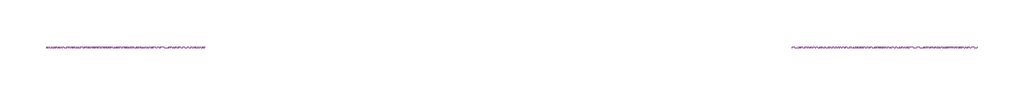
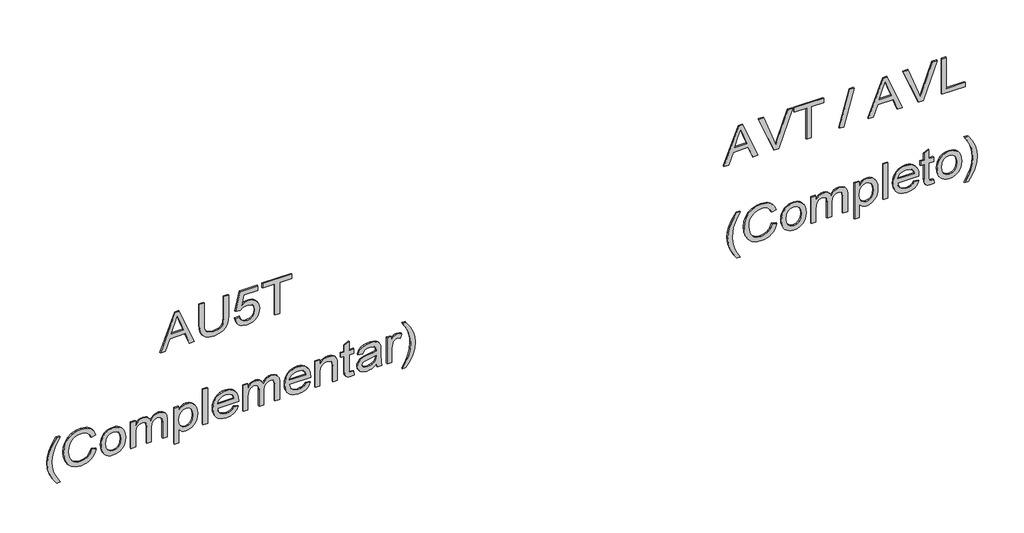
# One storey, part 7 of 14: 2 proxies.
"""IFC4 building model written with IfcOpenShell, lengths in millimetres."""

from ifc_helpers import new_model, si_unit, frame, origin, place, context, project, spatial, polyline, outline, extrude, element, save

model = new_model("IFC4")

# Units and contexts
model_context = context("Model", 3, world=origin())
ifc_project = project(units=[si_unit("LENGTHUNIT", "METRE", prefix="MILLI")], contexts=[model_context])

# Site, building, storey
site = spatial("IfcSite", under=ifc_project)
building = spatial("IfcBuilding", under=site)
storey = spatial("IfcBuildingStorey", under=building, Name="04 - Marelli - Planta Baixa - Painéis de Vidro", Elevation=36000.0)

# Proxies
placement = place(None, origin())
element("IfcBuildingElementProxy", 1, Name="300mm Arial", ObjectType="300mm Arial", at=placement, inside=storey, context=model_context, shape_type="SweptSolid", body=[
    extrude(outline(polyline([(42065.9244535, 53305.46327), (42065.9244535, 53345.2681019), (42160.1022443, 53379.7018566), (42160.1022443, 53503.8252418), (42065.9244535, 53538.3325729), (42065.9244535, 53578.1374048), (42367.293384, 53457.8399924), (42367.293384, 53425.7606824), (42065.9244535, 53305.46327)]), holes=[polyline([(42197.7733606, 53393.5342196), (42278.3395176, 53423.0383556), (42329.6222677, 53441.8003374), (42271.8647944, 53462.9167639), (42197.7733606, 53490.0664552), (42197.7733606, 53393.5342196)])]), frame((0.0, 8778.3159498, 0.0), z_axis=(0.0, 1.0, 0.0), x_axis=(0.0, 0.0, 1.0)), (0.0, 0.0, 1.0), 10.0),
    extrude(outline(polyline([(42367.293384, 53816.1570557), (42194.7567282, 53816.1570557), (42147.5942565, 53811.3929839), (42130.8556257, 53805.4378941), (42118.6787316, 53797.1007683), (42110.0197092, 53785.9677395), (42103.8346931, 53771.6249402), (42098.8866803, 53733.3100304), (42101.3882779, 53709.1401833), (42108.8930706, 53689.0170382), (42121.0055853, 53673.5843885), (42137.3303488, 53663.4860277), (42160.9023876, 53657.9126155), (42194.7567282, 53656.0548114), (42367.293384, 53656.0548114), (42367.293384, 53618.3836951), (42193.4323531, 53618.3836951), (42150.6568741, 53621.2439776), (42117.9797559, 53629.8248251), (42093.6167707, 53645.0919279), (42075.783691, 53668.0109762), (42064.8575957, 53698.5911671), (42061.215564, 53736.8416975), (42065.4002217, 53775.9475536), (42077.9541948, 53806.7392766), (42097.176029, 53829.2720488), (42121.3642702, 53843.6010525), (42152.7170132, 53851.2713921), (42193.4323531, 53853.828172), (42367.293384, 53853.828172), (42367.293384, 53816.1570557)])), frame((0.0, 8778.3159498, 0.0), z_axis=(0.0, 1.0, 0.0), x_axis=(0.0, 0.0, 1.0)), (0.0, 0.0, 1.0), 10.0),
    extrude(outline(polyline([(42145.9755757, 53905.6259569), (42111.4222593, 53914.8138098), (42096.9805917, 53923.5395108), (42084.4289179, 53935.0197283), (42074.2730756, 53948.8176024), (42067.0189025, 53964.4962732), (42061.215564, 54001.4960049), (42063.4734397, 54024.9852703), (42070.247067, 54045.8625735), (42081.5364457, 54064.1279145), (42097.3415759, 54079.7812934), (42112.7742256, 54090.114179), (42129.5680387, 54097.4948115), (42167.239155, 54103.3993175), (42187.5002559, 54101.7599434), (42205.8299763, 54096.841821), (42222.2283162, 54088.6449503), (42236.6952757, 54077.1693313), (42248.5088863, 54063.3070778), (42256.9471795, 54047.9503038), (42262.0101555, 54031.0990092), (42263.6978141, 54012.7531939), (42258.2531606, 53984.555039), (42241.9192, 53957.644471), (42324.9133781, 53973.7577024), (42324.9133781, 54089.2726489), (42362.5844944, 54089.2726489), (42362.5844944, 53943.2970732), (42207.1911397, 53910.3348465), (42202.4822501, 53948.0059628), (42219.4783983, 53969.1591775), (42224.389623, 53983.9572307), (42226.0266978, 54002.2317689), (42221.9248136, 54030.1264211), (42209.6191609, 54049.9460636), (42190.2317797, 54061.7826668), (42164.8847102, 54065.7282012), (42137.9649452, 54061.5159524), (42116.9496863, 54048.8792058), (42103.4024318, 54028.6456961), (42098.8866803, 54001.6431577), (42102.1332389, 53979.4414793), (42111.8729147, 53962.2797842), (42128.0689196, 53950.2132547), (42150.6844652, 53943.2970732), (42145.9755757, 53905.6259569)])), frame((0.0, 8778.3159498, 0.0), z_axis=(0.0, 1.0, 0.0), x_axis=(0.0, 0.0, 1.0)), (0.0, 0.0, 1.0), 10.0),
    extrude(outline(polyline([(42065.9244535, 54225.8304455), (42065.9244535, 54263.5015618), (42329.6222677, 54263.5015618), (42329.6222677, 54362.3882421), (42367.293384, 54362.3882421), (42367.293384, 54126.9437652), (42329.6222677, 54126.9437652), (42329.6222677, 54225.8304455), (42065.9244535, 54225.8304455)])), frame((0.0, 8778.3159498, 0.0), z_axis=(0.0, 1.0, 0.0), x_axis=(0.0, 0.0, 1.0)), (0.0, 0.0, 1.0), 10.0),
    extrude(outline(polyline([(41249.3155348, 52469.4146478), (41249.3155348, 52497.667985), (41297.5540614, 52468.8260366), (41345.8109821, 52448.2246448), (41394.0862969, 52435.8638098), (41442.3800058, 52431.7435314), (41480.2534572, 52434.1163703), (41517.9429677, 52441.2348869), (41575.7740173, 52462.4248898), (41635.4444769, 52497.667985), (41635.4444769, 52469.4146478), (41584.934279, 52434.7233756), (41534.2033518, 52410.4063757), (41489.4137189, 52398.1559053), (41442.600735, 52394.0724151), (41389.2210575, 52399.5354628), (41337.68079, 52415.9246057), (41290.2791949, 52440.2232114), (41249.3155348, 52469.4146478)])), frame((0.0, 8778.3159498, 0.0), z_axis=(0.0, 1.0, 0.0), x_axis=(0.0, 0.0, 1.0)), (0.0, 0.0, 1.0), 10.0),
    extrude(outline(polyline([(41441.2027835, 52751.94802), (41408.9395325, 52739.761929), (41385.7261786, 52719.9790747), (41371.7098746, 52693.7766796), (41367.0377732, 52662.331966), (41370.4682728, 52635.3570187), (41380.7597717, 52610.3502401), (41397.9858461, 52589.491331), (41422.2200725, 52574.9599922), (41452.3128197, 52566.4343269), (41487.1144565, 52563.5924385), (41515.5333406, 52565.9928685), (41543.1060961, 52573.1941586), (41567.4966724, 52586.3183488), (41586.3690188, 52606.4874792), (41598.4539423, 52633.0669533), (41602.4822501, 52665.4221748), (41598.8494154, 52693.491571), (41587.9509113, 52716.3370429), (41569.1061561, 52734.1793197), (41541.6345681, 52747.2391305), (41550.6108888, 52784.9102468), (41588.4291579, 52768.2727836), (41603.751443, 52756.4706693), (41616.6824952, 52742.3463), (41626.9510013, 52726.16639), (41634.2856486, 52708.1976538), (41640.1533665, 52666.8937028), (41635.6192209, 52629.0386455), (41622.0167841, 52594.4945261), (41599.6771499, 52565.3674691), (41568.9314122, 52543.763599), (41530.9843844, 52530.3818914), (41487.0408801, 52525.9213222), (41445.3782441, 52529.8668566), (41406.4747231, 52541.7034598), (41373.3837376, 52561.0908409), (41349.1587083, 52587.6887092), (41334.3146698, 52622.3891784), (41329.3666569, 52666.0843624), (41331.0014325, 52688.50677), (41335.9057594, 52709.1265558), (41344.0796375, 52727.9437199), (41355.5230668, 52744.9582621), (41370.0796975, 52759.8344903), (41387.5931797, 52772.2367121), (41408.0635135, 52782.1649274), (41431.4906988, 52789.6191364), (41441.2027835, 52751.94802)])), frame((0.0, 8778.3159498, 0.0), z_axis=(0.0, 1.0, 0.0), x_axis=(0.0, 0.0, 1.0)), (0.0, 0.0, 1.0), 10.0),
    extrude(outline(polyline([(41444.7344506, 52827.2902527), (41418.4124939, 52828.9986047), (41395.3646869, 52834.1236607), (41375.5910296, 52842.6654208), (41359.0915221, 52854.6238849), (41346.0868936, 52869.350661), (41336.7978732, 52886.1973571), (41331.224461, 52905.1639733), (41329.3666569, 52926.2505094), (41332.7419742, 52952.8391806), (41342.8679261, 52977.2757421), (41359.1007192, 52997.8495427), (41380.7965599, 53012.849931), (41409.767267, 53022.0101927), (41447.8246594, 53025.0636133), (41472.7049786, 53023.3368672), (41494.7388108, 53018.1566288), (41513.9261561, 53009.5228982), (41530.2670145, 52997.4356754), (41543.3199275, 52982.6261259), (41552.6434368, 52965.825415), (41558.2375424, 52947.0335428), (41560.1022443, 52926.2505094), (41558.5709355, 52907.4241483), (41553.9770091, 52890.0877092), (41546.3204651, 52874.2411923), (41535.6013034, 52859.8845974), (41518.830483, 52845.6245716), (41498.095734, 52835.4388389), (41473.3970566, 52829.3273992), (41444.7344506, 52827.2902527)]), holes=[polyline([(41444.808027, 52864.961369), (41478.8830968, 52869.3207706), (41503.1173232, 52882.3989755), (41517.6026768, 52902.0806623), (41522.431128, 52926.2505094), (41517.5842827, 52950.1720361), (41503.0437468, 52969.8445258), (41479.0854319, 52983.0055042), (41445.9852494, 52987.392497), (41411.1468245, 52983.0330953), (41386.535519, 52969.9548904), (41371.9122097, 52950.3099918), (41367.0377732, 52926.2505094), (41371.8846185, 52902.0806623), (41386.4251544, 52882.3989755), (41410.7145631, 52869.3207706), (41444.808027, 52864.961369)])]), frame((0.0, 8778.3159498, 0.0), z_axis=(0.0, 1.0, 0.0), x_axis=(0.0, 0.0, 1.0)), (0.0, 0.0, 1.0), 10.0),
    extrude(outline(polyline([(41334.0755465, 53067.4436191), (41334.0755465, 53105.1147354), (41445.6909438, 53105.1147354), (41471.6082304, 53106.5494752), (41490.6461236, 53110.8536945), (41504.368122, 53118.3584872), (41514.3377241, 53129.3949471), (41520.407777, 53142.7674576), (41522.431128, 53157.2804023), (41519.3961015, 53174.359324), (41510.2910222, 53185.8648334), (41495.0974958, 53192.4039358), (41473.7971282, 53194.5836366), (41334.0755465, 53194.5836366), (41334.0755465, 53232.2547529), (41459.008272, 53232.2547529), (41487.7214617, 53235.94277), (41507.3479662, 53247.006821), (41518.6603375, 53263.6442842), (41522.431128, 53284.0525379), (41520.9596, 53295.6132296), (41516.5450161, 53305.5736346), (41509.7300021, 53313.3175506), (41501.0571841, 53318.2287752), (41469.6032735, 53321.7236542), (41334.0755465, 53321.7236542), (41334.0755465, 53359.3947705), (41485.7900813, 53359.3947705), (41518.7615051, 53355.0813541), (41541.8920855, 53342.1411049), (41555.5497046, 53321.1994223), (41560.1022443, 53292.8817058), (41557.366122, 53273.3563689), (41549.1577549, 53255.7624124), (41535.4771432, 53240.0998365), (41516.3242869, 53226.368641), (41534.7643719, 53218.1648725), (41548.5875379, 53205.6200965), (41557.2235677, 53188.8262834), (41560.1022443, 53167.8754038), (41557.27875, 53148.3224757), (41548.808267, 53131.0136279), (41535.702471, 53116.4455009), (41518.9730372, 53105.1147354), (41555.3933548, 53105.1147354), (41555.3933548, 53067.4436191), (41334.0755465, 53067.4436191)])), frame((0.0, 8778.3159498, 0.0), z_axis=(0.0, 1.0, 0.0), x_axis=(0.0, 0.0, 1.0)), (0.0, 0.0, 1.0), 10.0),
    extrude(outline(polyline([(41249.3155348, 53415.9014449), (41249.3155348, 53453.5725612), (41363.5061061, 53453.5725612), (41349.9956398, 53464.213548), (41339.0419534, 53477.4481027), (41331.785481, 53492.9083436), (41329.3666569, 53510.2263885), (41332.9810975, 53534.6445559), (41343.8244193, 53557.8671069), (41361.4459669, 53577.806311), (41385.3950848, 53592.374438), (41414.2094421, 53601.2863794), (41446.4267078, 53604.2570265), (41476.7217901, 53601.6266702), (41504.4784866, 53593.7356014), (41527.9861461, 53580.6757906), (41545.5341173, 53562.5392082), (41556.4602125, 53540.2639534), (41560.1022443, 53514.7881252), (41557.4994792, 53495.6582615), (41549.6911838, 53479.6186065), (41536.6773583, 53465.8598199), (41518.4580024, 53453.5725612), (41555.3933548, 53453.5725612), (41555.3933548, 53415.9014449), (41249.3155348, 53415.9014449)]), holes=[polyline([(41442.968617, 53453.5725612), (41477.1356573, 53457.9227658), (41502.0872537, 53470.9733796), (41517.3451594, 53489.670982), (41522.431128, 53510.9621525), (41517.6486621, 53532.1705495), (41503.3012642, 53550.1783732), (41479.3521464, 53562.4840259), (41445.7645202, 53566.5859102), (41410.7237602, 53562.3828584), (41386.2412134, 53549.773703), (41371.8386333, 53531.2784357), (41367.0377732, 53509.4170481), (41371.6730864, 53487.9051484), (41385.5790258, 53469.8697336), (41409.1970499, 53457.6468543), (41442.968617, 53453.5725612)])]), frame((0.0, 8778.3159498, 0.0), z_axis=(0.0, 1.0, 0.0), x_axis=(0.0, 0.0, 1.0)), (0.0, 0.0, 1.0), 10.0),
    extrude(outline(polyline([(53684.3081486, 8778.3159498), (53646.6370323, 8778.3159498), (53646.6370323, 8788.3159498), (53684.3081486, 8788.3159498), (53684.3081486, 8778.3159498)])), frame((0.0, 0.0, 41334.0755465), z_axis=(0.0, 0.0, 1.0), x_axis=(1.0, 0.0, 0.0)), (0.0, 0.0, 1.0), 301.3689304),
    extrude(outline(polyline([(41400.0, 53895.7667195), (41385.1191733, 53885.2085062), (41374.9104479, 53871.4865078), (41369.0059419, 53854.6007242), (41367.0377732, 53834.5511555), (41371.2868103, 53807.8889079), (41384.0339214, 53786.0275203), (41404.7640718, 53770.8799791), (41432.9622268, 53764.3592708), (41432.9622268, 53933.658565), (41443.1157698, 53933.8792942), (41469.3687487, 53932.0927672), (41492.5039277, 53926.7331864), (41512.5213067, 53917.8005517), (41529.4208859, 53905.2948631), (41542.8439802, 53889.9748773), (41552.4319047, 53872.5993508), (41558.1846594, 53853.1682837), (41560.1022443, 53831.6816759), (41558.1800609, 53809.4799975), (41552.4135106, 53789.4488228), (41542.8025935, 53771.588152), (41529.3473095, 53755.8979849), (41512.4109422, 53743.1186841), (41492.3567749, 53733.9906121), (41469.1848077, 53728.5137689), (41442.8950406, 53726.6881545), (41417.467497, 53728.4953748), (41395.0427901, 53733.9170357), (41375.62092, 53742.9531372), (41359.2018867, 53755.6036793), (41346.1489737, 53771.3352331), (41336.8254644, 53789.6143697), (41331.2313588, 53810.4410892), (41329.3666569, 53833.8153915), (41333.6892704, 53869.4723538), (41346.6571107, 53898.1579524), (41367.4608375, 53919.3939406), (41395.2911105, 53932.7020718), (41400.0, 53895.7667195)]), holes=[polyline([(41470.6333431, 53764.3592708), (41491.8693312, 53770.5488853), (41508.3412476, 53785.1446035), (41518.9086579, 53806.1414684), (41522.431128, 53831.5345231), (41518.0165441, 53859.1624609), (41504.7727922, 53881.125016), (41490.535759, 53891.1130122), (41470.6333431, 53896.2081778), (41470.6333431, 53764.3592708)])]), frame((0.0, 8778.3159498, 0.0), z_axis=(0.0, 1.0, 0.0), x_axis=(0.0, 0.0, 1.0)), (0.0, 0.0, 1.0), 10.0),
    extrude(outline(polyline([(41334.0755465, 53971.5504105), (41334.0755465, 54009.2215268), (41445.6909438, 54009.2215268), (41471.6082304, 54010.6562665), (41490.6461236, 54014.9604859), (41504.368122, 54022.4652786), (41514.3377241, 54033.5017384), (41520.407777, 54046.874249), (41522.431128, 54061.3871937), (41519.3961015, 54078.4661153), (41510.2910222, 54089.9716247), (41495.0974958, 54096.5107272), (41473.7971282, 54098.690428), (41334.0755465, 54098.690428), (41334.0755465, 54136.3615443), (41459.008272, 54136.3615443), (41487.7214617, 54140.0495613), (41507.3479662, 54151.1136123), (41518.6603375, 54167.7510755), (41522.431128, 54188.1593292), (41520.9596, 54199.7200209), (41516.5450161, 54209.6804259), (41509.7300021, 54217.4243419), (41501.0571841, 54222.3355666), (41469.6032735, 54225.8304455), (41334.0755465, 54225.8304455), (41334.0755465, 54263.5015618), (41485.7900813, 54263.5015618), (41518.7615051, 54259.1881454), (41541.8920855, 54246.2478963), (41555.5497046, 54225.3062137), (41560.1022443, 54196.9884971), (41557.366122, 54177.4631602), (41549.1577549, 54159.8692038), (41535.4771432, 54144.2066278), (41516.3242869, 54130.4754324), (41534.7643719, 54122.2716639), (41548.5875379, 54109.7268878), (41557.2235677, 54092.9330748), (41560.1022443, 54071.9821951), (41557.27875, 54052.4292671), (41548.808267, 54035.1204192), (41535.702471, 54020.5522922), (41518.9730372, 54009.2215268), (41555.3933548, 54009.2215268), (41555.3933548, 53971.5504105), (41334.0755465, 53971.5504105)])), frame((0.0, 8778.3159498, 0.0), z_axis=(0.0, 1.0, 0.0), x_axis=(0.0, 0.0, 1.0)), (0.0, 0.0, 1.0), 10.0),
    extrude(outline(polyline([(41400.0, 54474.9601327), (41385.1191733, 54464.4019194), (41374.9104479, 54450.679921), (41369.0059419, 54433.7941374), (41367.0377732, 54413.7445687), (41371.2868103, 54387.0823211), (41384.0339214, 54365.2209335), (41404.7640718, 54350.0733923), (41432.9622268, 54343.552684), (41432.9622268, 54512.8519782), (41443.1157698, 54513.0727074), (41469.3687487, 54511.2861804), (41492.5039277, 54505.9265996), (41512.5213067, 54496.9939649), (41529.4208859, 54484.4882763), (41542.8439802, 54469.1682905), (41552.4319047, 54451.792764), (41558.1846594, 54432.3616969), (41560.1022443, 54410.8750891), (41558.1800609, 54388.6734107), (41552.4135106, 54368.6422361), (41542.8025935, 54350.7815652), (41529.3473095, 54335.0913981), (41512.4109422, 54322.3120973), (41492.3567749, 54313.1840253), (41469.1848077, 54307.7071821), (41442.8950406, 54305.8815677), (41417.467497, 54307.688788), (41395.0427901, 54313.1104489), (41375.62092, 54322.1465504), (41359.2018867, 54334.7970925), (41346.1489737, 54350.5286463), (41336.8254644, 54368.8077829), (41331.2313588, 54389.6345024), (41329.3666569, 54413.0088047), (41333.6892704, 54448.6657671), (41346.6571107, 54477.3513656), (41367.4608375, 54498.5873538), (41395.2911105, 54511.895485), (41400.0, 54474.9601327)]), holes=[polyline([(41470.6333431, 54343.552684), (41491.8693312, 54349.7422985), (41508.3412476, 54364.3380167), (41518.9086579, 54385.3348816), (41522.431128, 54410.7279363), (41518.0165441, 54438.3558741), (41504.7727922, 54460.3184292), (41490.535759, 54470.3064254), (41470.6333431, 54475.4015911), (41470.6333431, 54343.552684)])]), frame((0.0, 8778.3159498, 0.0), z_axis=(0.0, 1.0, 0.0), x_axis=(0.0, 0.0, 1.0)), (0.0, 0.0, 1.0), 10.0),
    extrude(outline(polyline([(41334.0755465, 54550.7438237), (41334.0755465, 54588.41494), (41451.5034793, 54588.41494), (41486.2131456, 54592.7099623), (41498.5877762, 54598.0787401), (41507.6422718, 54605.5950291), (41518.7339139, 54624.4029961), (41522.431128, 54646.4667188), (41520.7848561, 54660.3634612), (41515.8460403, 54672.3288231), (41508.1481095, 54681.6638287), (41498.2244927, 54687.6695023), (41464.8943839, 54692.0105098), (41334.0755465, 54692.0105098), (41334.0755465, 54729.6816261), (41469.9711555, 54729.6816261), (41506.391473, 54727.6950633), (41534.0929872, 54716.4010861), (41544.6328064, 54706.3027253), (41552.9285454, 54692.1208744), (41558.3088196, 54675.1155292), (41560.1022443, 54656.5466855), (41557.8765582, 54635.5682147), (41551.1995, 54617.2201002), (41540.0710697, 54601.5023419), (41524.4912672, 54588.41494), (41555.3933548, 54588.41494), (41555.3933548, 54550.7438237), (41334.0755465, 54550.7438237)])), frame((0.0, 8778.3159498, 0.0), z_axis=(0.0, 1.0, 0.0), x_axis=(0.0, 0.0, 1.0)), (0.0, 0.0, 1.0), 10.0),
    extrude(outline(polyline([(41365.4926689, 54861.5305332), (41367.0377732, 54845.1229962), (41369.576159, 54832.2839146), (41376.4555523, 54825.8459797), (41395.8797217, 54823.8594169), (41517.7222385, 54823.8594169), (41517.7222385, 54861.5305332), (41555.3933548, 54861.5305332), (41555.3933548, 54823.8594169), (41631.3241986, 54823.8594169), (41609.1777025, 54786.1883006), (41555.3933548, 54786.1883006), (41555.3933548, 54757.9349633), (41517.7222385, 54757.9349633), (41517.7222385, 54786.1883006), (41394.7760757, 54786.1883006), (41367.7919313, 54787.3287348), (41352.0281878, 54790.7500373), (41342.849532, 54796.967243), (41335.6206508, 54806.4953867), (41330.9301554, 54819.9782618), (41329.3666569, 54838.0596619), (41332.9719005, 54866.2394227), (41365.4926689, 54861.5305332)])), frame((0.0, 8778.3159498, 0.0), z_axis=(0.0, 1.0, 0.0), x_axis=(0.0, 0.0, 1.0)), (0.0, 0.0, 1.0), 10.0),
    extrude(outline(polyline([(41362.3288837, 55040.4683356), (41334.0755465, 55049.8861147), (41334.0755465, 55087.557231), (41365.7501862, 55080.0524383), (41431.1963932, 55078.1394519), (41478.0645594, 55078.1394519), (41511.0267861, 55076.300042), (41525.1442577, 55071.7566993), (41536.5945848, 55064.7485473), (41545.856014, 55054.181137), (41553.406792, 55038.9600195), (41558.4283812, 55018.772495), (41560.1022443, 54993.3058639), (41558.207652, 54966.7539809), (41552.5238752, 54943.6050063), (41543.3452194, 54924.6774777), (41530.9659903, 54910.7899323), (41514.7791825, 54901.0318624), (41494.1777908, 54894.49276), (41489.4689012, 54932.1638763), (41505.1314772, 54939.6502749), (41515.1838527, 54950.3372468), (41520.6193092, 54966.0090198), (41522.431128, 54988.4498215), (41519.7088012, 55012.693245), (41511.5418209, 55030.0940634), (41500.5421493, 55037.8747676), (41483.7299421, 55040.4683356), (41475.3422326, 55040.2476064), (41468.3524747, 55013.429009), (41462.3927864, 54974.9117641), (41456.7274037, 54942.3174193), (41444.3665686, 54915.9402803), (41434.8752131, 54905.3360818), (41422.7351073, 54896.9943575), (41408.5532564, 54891.5864922), (41392.9366657, 54889.7838704), (41367.6079903, 54894.5571393), (41347.2457219, 54908.876946), (41333.8364232, 54932.0994969), (41329.3666569, 54963.5809987), (41331.224461, 54984.4491048), (41336.7978732, 55003.9376535), (41346.896234, 55022.469709), (41362.3288837, 55040.4683356)]), holes=[polyline([(41437.6711163, 55040.4683356), (41427.0025384, 55040.2476064), (41410.0799667, 55038.7576844), (41397.8662844, 55034.2879181), (41386.0112871, 55024.2079515), (41376.0508821, 55009.7134008), (41369.2910505, 54991.8343359), (41367.0377732, 54971.6008261), (41369.0795183, 54952.5169476), (41375.2047535, 54938.6753876), (41384.3834093, 54930.2600869), (41395.5854161, 54927.4549867), (41410.0799667, 54932.6053347), (41420.0127805, 54947.2838263), (41426.1196217, 54979.69423), (41437.6711163, 55040.4683356)])]), frame((0.0, 8778.3159498, 0.0), z_axis=(0.0, 1.0, 0.0), x_axis=(0.0, 0.0, 1.0)), (0.0, 0.0, 1.0), 10.0),
    extrude(outline(polyline([(41334.0755465, 55129.9372369), (41334.0755465, 55167.6083532), (41450.3998333, 55167.6083532), (41473.3556698, 55169.1350635), (41494.39852, 55173.7151943), (41506.1339556, 55179.1690449), (41514.9999117, 55187.2900399), (41520.5733239, 55197.3424154), (41522.431128, 55208.5904074), (41520.4997475, 55221.8341593), (41514.7056061, 55235.0779111), (41548.4771733, 55247.6594753), (41557.1959765, 55228.603188), (41560.1022443, 55209.8412062), (41558.2812284, 55197.5539476), (41552.8181808, 55186.2967585), (41541.6345681, 55175.0763577), (41522.6518572, 55162.8994636), (41555.3933548, 55162.8994636), (41555.3933548, 55129.9372369), (41334.0755465, 55129.9372369)])), frame((0.0, 8778.3159498, 0.0), z_axis=(0.0, 1.0, 0.0), x_axis=(0.0, 0.0, 1.0)), (0.0, 0.0, 1.0), 10.0),
    extrude(outline(polyline([(41249.3155348, 55280.6217021), (41290.2791949, 55309.6751827), (41337.68079, 55334.0013796), (41389.2210575, 55350.4732959), (41442.600735, 55355.9639347), (41489.4137189, 55351.8804446), (41534.2033518, 55339.6299741), (41584.934279, 55315.3129742), (41635.4444769, 55280.6217021), (41635.4444769, 55252.3683649), (41575.1854061, 55287.8321892), (41546.8400984, 55299.8067481), (41517.2807801, 55308.8014629), (41479.9775458, 55315.9199795), (41442.3800058, 55318.2928184), (41394.0862969, 55314.1725401), (41345.8109821, 55301.811705), (41297.5540614, 55281.2103133), (41249.3155348, 55252.3683649), (41249.3155348, 55280.6217021)])), frame((0.0, 8778.3159498, 0.0), z_axis=(0.0, 1.0, 0.0), x_axis=(0.0, 0.0, 1.0)), (0.0, 0.0, 1.0), 10.0),
])
element("IfcBuildingElementProxy", 2, Name="300mm Arial", ObjectType="300mm Arial", at=placement, inside=storey, context=model_context, shape_type="SweptSolid", body=[
    extrude(outline(polyline([(42065.9244535, 57839.2832057), (42065.9244535, 57879.0880376), (42160.1022443, 57913.5217923), (42160.1022443, 58037.6451775), (42065.9244535, 58072.1525086), (42065.9244535, 58111.9573405), (42367.293384, 57991.6599281), (42367.293384, 57959.5806181), (42065.9244535, 57839.2832057)]), holes=[polyline([(42197.7733606, 57927.3541553), (42278.3395176, 57956.8582914), (42329.6222677, 57975.6202731), (42271.8647944, 57996.7366996), (42197.7733606, 58023.8863909), (42197.7733606, 57927.3541553)])]), frame((0.0, 8778.3159498, 0.0), z_axis=(0.0, 1.0, 0.0), x_axis=(0.0, 0.0, 1.0)), (0.0, 0.0, 1.0), 10.0),
    extrude(outline(polyline([(42065.9244535, 58241.2310736), (42065.9244535, 58280.1529887), (42367.293384, 58395.0057476), (42367.293384, 58354.6858809), (42150.1694304, 58274.1933004), (42101.2411251, 58258.1536454), (42150.1694304, 58241.8932612), (42367.293384, 58161.6214099), (42367.293384, 58121.3015432), (42065.9244535, 58241.2310736)])), frame((0.0, 8778.3159498, 0.0), z_axis=(0.0, 1.0, 0.0), x_axis=(0.0, 0.0, 1.0)), (0.0, 0.0, 1.0), 10.0),
    extrude(outline(polyline([(42065.9244535, 58505.3703462), (42065.9244535, 58543.0414625), (42329.6222677, 58543.0414625), (42329.6222677, 58641.9281428), (42367.293384, 58641.9281428), (42367.293384, 58406.4836659), (42329.6222677, 58406.4836659), (42329.6222677, 58505.3703462), (42065.9244535, 58505.3703462)])), frame((0.0, 8778.3159498, 0.0), z_axis=(0.0, 1.0, 0.0), x_axis=(0.0, 0.0, 1.0)), (0.0, 0.0, 1.0), 10.0),
    extrude(outline(polyline([(42065.9244535, 58769.0681603), (42065.9244535, 58803.0604567), (42367.293384, 58887.8204684), (42367.293384, 58853.828172), (42065.9244535, 58769.0681603)])), frame((0.0, 8778.3159498, 0.0), z_axis=(0.0, 1.0, 0.0), x_axis=(0.0, 0.0, 1.0)), (0.0, 0.0, 1.0), 10.0),
    extrude(outline(polyline([(42065.9244535, 59002.3789217), (42065.9244535, 59042.1837535), (42160.1022443, 59076.6175083), (42160.1022443, 59200.7408935), (42065.9244535, 59235.2482246), (42065.9244535, 59275.0530565), (42367.293384, 59154.7556441), (42367.293384, 59122.6763341), (42065.9244535, 59002.3789217)]), holes=[polyline([(42197.7733606, 59090.4498713), (42278.3395176, 59119.9540073), (42329.6222677, 59138.7159891), (42271.8647944, 59159.8324156), (42197.7733606, 59186.9821068), (42197.7733606, 59090.4498713)])]), frame((0.0, 8778.3159498, 0.0), z_axis=(0.0, 1.0, 0.0), x_axis=(0.0, 0.0, 1.0)), (0.0, 0.0, 1.0), 10.0),
    extrude(outline(polyline([(42065.9244535, 59404.3267896), (42065.9244535, 59443.2487047), (42367.293384, 59558.1014636), (42367.293384, 59517.7815969), (42150.1694304, 59437.2890164), (42101.2411251, 59421.2493614), (42150.1694304, 59404.9889772), (42367.293384, 59324.7171258), (42367.293384, 59284.3972592), (42065.9244535, 59404.3267896)])), frame((0.0, 8778.3159498, 0.0), z_axis=(0.0, 1.0, 0.0), x_axis=(0.0, 0.0, 1.0)), (0.0, 0.0, 1.0), 10.0),
    extrude(outline(polyline([(42065.9244535, 59593.1238295), (42065.9244535, 59781.479411), (42103.5955698, 59781.479411), (42103.5955698, 59630.7949458), (42367.293384, 59630.7949458), (42367.293384, 59593.1238295), (42065.9244535, 59593.1238295)])), frame((0.0, 8778.3159498, 0.0), z_axis=(0.0, 1.0, 0.0), x_axis=(0.0, 0.0, 1.0)), (0.0, 0.0, 1.0), 10.0),
    extrude(outline(polyline([(41249.3155348, 57945.0124911), (41249.3155348, 57973.2658283), (41297.5540614, 57944.4238799), (41345.8109821, 57923.8224882), (41394.0862969, 57911.4616532), (41442.3800058, 57907.3413748), (41480.2534572, 57909.7142137), (41517.9429677, 57916.8327303), (41575.7740173, 57938.0227332), (41635.4444769, 57973.2658283), (41635.4444769, 57945.0124911), (41584.934279, 57910.321219), (41534.2033518, 57886.0042191), (41489.4137189, 57873.7537486), (41442.600735, 57869.6702585), (41389.2210575, 57875.1333061), (41337.68079, 57891.522449), (41290.2791949, 57915.8210548), (41249.3155348, 57945.0124911)])), frame((0.0, 8778.3159498, 0.0), z_axis=(0.0, 1.0, 0.0), x_axis=(0.0, 0.0, 1.0)), (0.0, 0.0, 1.0), 10.0),
    extrude(outline(polyline([(41441.2027835, 58227.5458634), (41408.9395325, 58215.3597723), (41385.7261786, 58195.576918), (41371.7098746, 58169.3745229), (41367.0377732, 58137.9298094), (41370.4682728, 58110.9548621), (41380.7597717, 58085.9480835), (41397.9858461, 58065.0891743), (41422.2200725, 58050.5578355), (41452.3128197, 58042.0321703), (41487.1144565, 58039.1902819), (41515.5333406, 58041.5907119), (41543.1060961, 58048.792002), (41567.4966724, 58061.9161921), (41586.3690188, 58082.0853225), (41598.4539423, 58108.6647967), (41602.4822501, 58141.0200181), (41598.8494154, 58169.0894144), (41587.9509113, 58191.9348863), (41569.1061561, 58209.777163), (41541.6345681, 58222.8369739), (41550.6108888, 58260.5080902), (41588.4291579, 58243.8706269), (41603.751443, 58232.0685127), (41616.6824952, 58217.9441433), (41626.9510013, 58201.7642333), (41634.2856486, 58183.7954971), (41640.1533665, 58142.4915461), (41635.6192209, 58104.6364888), (41622.0167841, 58070.0923695), (41599.6771499, 58040.9653125), (41568.9314122, 58019.3614423), (41530.9843844, 58005.9797348), (41487.0408801, 58001.5191656), (41445.3782441, 58005.4647), (41406.4747231, 58017.3013032), (41373.3837376, 58036.6886843), (41349.1587083, 58063.2865526), (41334.3146698, 58097.9870218), (41329.3666569, 58141.6822057), (41331.0014325, 58164.1046133), (41335.9057594, 58184.7243992), (41344.0796375, 58203.5415632), (41355.5230668, 58220.5561055), (41370.0796975, 58235.4323337), (41387.5931797, 58247.8345554), (41408.0635135, 58257.7627708), (41431.4906988, 58265.2169797), (41441.2027835, 58227.5458634)])), frame((0.0, 8778.3159498, 0.0), z_axis=(0.0, 1.0, 0.0), x_axis=(0.0, 0.0, 1.0)), (0.0, 0.0, 1.0), 10.0),
    extrude(outline(polyline([(41444.7344506, 58302.888096), (41418.4124939, 58304.596448), (41395.3646869, 58309.7215041), (41375.5910296, 58318.2632642), (41359.0915221, 58330.2217283), (41346.0868936, 58344.9485044), (41336.7978732, 58361.7952005), (41331.224461, 58380.7618166), (41329.3666569, 58401.8483527), (41332.7419742, 58428.4370239), (41342.8679261, 58452.8735855), (41359.1007192, 58473.447386), (41380.7965599, 58488.4477744), (41409.767267, 58497.6080361), (41447.8246594, 58500.6614566), (41472.7049786, 58498.9347105), (41494.7388108, 58493.7544722), (41513.9261561, 58485.1207416), (41530.2670145, 58473.0335188), (41543.3199275, 58458.2239692), (41552.6434368, 58441.4232584), (41558.2375424, 58422.6313862), (41560.1022443, 58401.8483527), (41558.5709355, 58383.0219916), (41553.9770091, 58365.6855526), (41546.3204651, 58349.8390357), (41535.6013034, 58335.4824408), (41518.830483, 58321.222415), (41498.095734, 58311.0366822), (41473.3970566, 58304.9252426), (41444.7344506, 58302.888096)]), holes=[polyline([(41444.808027, 58340.5592123), (41478.8830968, 58344.918614), (41503.1173232, 58357.9968189), (41517.6026768, 58377.6785056), (41522.431128, 58401.8483527), (41517.5842827, 58425.7698795), (41503.0437468, 58445.4423692), (41479.0854319, 58458.6033475), (41445.9852494, 58462.9903403), (41411.1468245, 58458.6309387), (41386.535519, 58445.5527338), (41371.9122097, 58425.9078352), (41367.0377732, 58401.8483527), (41371.8846185, 58377.6785056), (41386.4251544, 58357.9968189), (41410.7145631, 58344.918614), (41444.808027, 58340.5592123)])]), frame((0.0, 8778.3159498, 0.0), z_axis=(0.0, 1.0, 0.0), x_axis=(0.0, 0.0, 1.0)), (0.0, 0.0, 1.0), 10.0),
    extrude(outline(polyline([(41334.0755465, 58543.0414625), (41334.0755465, 58580.7125788), (41445.6909438, 58580.7125788), (41471.6082304, 58582.1473186), (41490.6461236, 58586.4515379), (41504.368122, 58593.9563306), (41514.3377241, 58604.9927905), (41520.407777, 58618.365301), (41522.431128, 58632.8782457), (41519.3961015, 58649.9571673), (41510.2910222, 58661.4626767), (41495.0974958, 58668.0017792), (41473.7971282, 58670.18148), (41334.0755465, 58670.18148), (41334.0755465, 58707.8525963), (41459.008272, 58707.8525963), (41487.7214617, 58711.5406133), (41507.3479662, 58722.6046643), (41518.6603375, 58739.2421276), (41522.431128, 58759.6503812), (41520.9596, 58771.2110729), (41516.5450161, 58781.171478), (41509.7300021, 58788.915394), (41501.0571841, 58793.8266186), (41469.6032735, 58797.3214975), (41334.0755465, 58797.3214975), (41334.0755465, 58834.9926138), (41485.7900813, 58834.9926138), (41518.7615051, 58830.6791975), (41541.8920855, 58817.7389483), (41555.5497046, 58796.7972657), (41560.1022443, 58768.4795491), (41557.366122, 58748.9542122), (41549.1577549, 58731.3602558), (41535.4771432, 58715.6976799), (41516.3242869, 58701.9664844), (41534.7643719, 58693.7627159), (41548.5875379, 58681.2179399), (41557.2235677, 58664.4241268), (41560.1022443, 58643.4732472), (41557.27875, 58623.9203191), (41548.808267, 58606.6114712), (41535.702471, 58592.0433442), (41518.9730372, 58580.7125788), (41555.3933548, 58580.7125788), (41555.3933548, 58543.0414625), (41334.0755465, 58543.0414625)])), frame((0.0, 8778.3159498, 0.0), z_axis=(0.0, 1.0, 0.0), x_axis=(0.0, 0.0, 1.0)), (0.0, 0.0, 1.0), 10.0),
    extrude(outline(polyline([(41249.3155348, 58891.4992883), (41249.3155348, 58929.1704046), (41363.5061061, 58929.1704046), (41349.9956398, 58939.8113913), (41339.0419534, 58953.0459461), (41331.785481, 58968.5061869), (41329.3666569, 58985.8242319), (41332.9810975, 59010.2423993), (41343.8244193, 59033.4649502), (41361.4459669, 59053.4041544), (41385.3950848, 59067.9722814), (41414.2094421, 59076.8842227), (41446.4267078, 59079.8548698), (41476.7217901, 59077.2245136), (41504.4784866, 59069.3334448), (41527.9861461, 59056.2736339), (41545.5341173, 59038.1370516), (41556.4602125, 59015.8617968), (41560.1022443, 58990.3859686), (41557.4994792, 58971.2561049), (41549.6911838, 58955.2164499), (41536.6773583, 58941.4576633), (41518.4580024, 58929.1704046), (41555.3933548, 58929.1704046), (41555.3933548, 58891.4992883), (41249.3155348, 58891.4992883)]), holes=[polyline([(41442.968617, 58929.1704046), (41477.1356573, 58933.5206092), (41502.0872537, 58946.571223), (41517.3451594, 58965.2688254), (41522.431128, 58986.5599959), (41517.6486621, 59007.7683929), (41503.3012642, 59025.7762165), (41479.3521464, 59038.0818693), (41445.7645202, 59042.1837535), (41410.7237602, 59037.9807017), (41386.2412134, 59025.3715464), (41371.8386333, 59006.876279), (41367.0377732, 58985.0148915), (41371.6730864, 58963.5029918), (41385.5790258, 58945.467577), (41409.1970499, 58933.2446977), (41442.968617, 58929.1704046)])]), frame((0.0, 8778.3159498, 0.0), z_axis=(0.0, 1.0, 0.0), x_axis=(0.0, 0.0, 1.0)), (0.0, 0.0, 1.0), 10.0),
    extrude(outline(polyline([(59159.905992, 8778.3159498), (59122.2348757, 8778.3159498), (59122.2348757, 8788.3159498), (59159.905992, 8788.3159498), (59159.905992, 8778.3159498)])), frame((0.0, 0.0, 41334.0755465), z_axis=(0.0, 0.0, 1.0), x_axis=(1.0, 0.0, 0.0)), (0.0, 0.0, 1.0), 301.3689304),
    extrude(outline(polyline([(41400.0, 59371.3645628), (41385.1191733, 59360.8063496), (41374.9104479, 59347.0843511), (41369.0059419, 59330.1985676), (41367.0377732, 59310.1489988), (41371.2868103, 59283.4867512), (41384.0339214, 59261.6253637), (41404.7640718, 59246.4778225), (41432.9622268, 59239.9571141), (41432.9622268, 59409.2564083), (41443.1157698, 59409.4771375), (41469.3687487, 59407.6906106), (41492.5039277, 59402.3310298), (41512.5213067, 59393.3983951), (41529.4208859, 59380.8927065), (41542.8439802, 59365.5727207), (41552.4319047, 59348.1971942), (41558.1846594, 59328.766127), (41560.1022443, 59307.2795193), (41558.1800609, 59285.0778408), (41552.4135106, 59265.0466662), (41542.8025935, 59247.1859953), (41529.3473095, 59231.4958282), (41512.4109422, 59218.7165274), (41492.3567749, 59209.5884554), (41469.1848077, 59204.1116122), (41442.8950406, 59202.2859978), (41417.467497, 59204.0932181), (41395.0427901, 59209.514879), (41375.62092, 59218.5509805), (41359.2018867, 59231.2015227), (41346.1489737, 59246.9330765), (41336.8254644, 59265.2122131), (41331.2313588, 59286.0389326), (41329.3666569, 59309.4132348), (41333.6892704, 59345.0701972), (41346.6571107, 59373.7557958), (41367.4608375, 59394.991784), (41395.2911105, 59408.2999151), (41400.0, 59371.3645628)]), holes=[polyline([(41470.6333431, 59239.9571141), (41491.8693312, 59246.1467287), (41508.3412476, 59260.7424469), (41518.9086579, 59281.7393117), (41522.431128, 59307.1323665), (41518.0165441, 59334.7603043), (41504.7727922, 59356.7228594), (41490.535759, 59366.7108556), (41470.6333431, 59371.8060212), (41470.6333431, 59239.9571141)])]), frame((0.0, 8778.3159498, 0.0), z_axis=(0.0, 1.0, 0.0), x_axis=(0.0, 0.0, 1.0)), (0.0, 0.0, 1.0), 10.0),
    extrude(outline(polyline([(41365.4926689, 59527.199376), (41367.0377732, 59510.791839), (41369.576159, 59497.9527574), (41376.4555523, 59491.5148224), (41395.8797217, 59489.5282597), (41517.7222385, 59489.5282597), (41517.7222385, 59527.199376), (41555.3933548, 59527.199376), (41555.3933548, 59489.5282597), (41631.3241986, 59489.5282597), (41609.1777025, 59451.8571434), (41555.3933548, 59451.8571434), (41555.3933548, 59423.6038061), (41517.7222385, 59423.6038061), (41517.7222385, 59451.8571434), (41394.7760757, 59451.8571434), (41367.7919313, 59452.9975775), (41352.0281878, 59456.4188801), (41342.849532, 59462.6360858), (41335.6206508, 59472.1642295), (41330.9301554, 59485.6471046), (41329.3666569, 59503.7285047), (41332.9719005, 59531.9082655), (41365.4926689, 59527.199376)])), frame((0.0, 8778.3159498, 0.0), z_axis=(0.0, 1.0, 0.0), x_axis=(0.0, 0.0, 1.0)), (0.0, 0.0, 1.0), 10.0),
    extrude(outline(polyline([(41444.7344506, 59555.4527132), (41418.4124939, 59557.1610652), (41395.3646869, 59562.2861213), (41375.5910296, 59570.8278813), (41359.0915221, 59582.7863454), (41346.0868936, 59597.5131216), (41336.7978732, 59614.3598177), (41331.224461, 59633.3264338), (41329.3666569, 59654.4129699), (41332.7419742, 59681.0016411), (41342.8679261, 59705.4382026), (41359.1007192, 59726.0120032), (41380.7965599, 59741.0123916), (41409.767267, 59750.1726532), (41447.8246594, 59753.2260738), (41472.7049786, 59751.4993277), (41494.7388108, 59746.3190893), (41513.9261561, 59737.6853588), (41530.2670145, 59725.598136), (41543.3199275, 59710.7885864), (41552.6434368, 59693.9878755), (41558.2375424, 59675.1960034), (41560.1022443, 59654.4129699), (41558.5709355, 59635.5866088), (41553.9770091, 59618.2501698), (41546.3204651, 59602.4036528), (41535.6013034, 59588.047058), (41518.830483, 59573.7870321), (41498.095734, 59563.6012994), (41473.3970566, 59557.4898597), (41444.7344506, 59555.4527132)]), holes=[polyline([(41444.808027, 59593.1238295), (41478.8830968, 59597.4832312), (41503.1173232, 59610.5614361), (41517.6026768, 59630.2431228), (41522.431128, 59654.4129699), (41517.5842827, 59678.3344966), (41503.0437468, 59698.0069863), (41479.0854319, 59711.1679647), (41445.9852494, 59715.5549575), (41411.1468245, 59711.1955559), (41386.535519, 59698.1173509), (41371.9122097, 59678.4724524), (41367.0377732, 59654.4129699), (41371.8846185, 59630.2431228), (41386.4251544, 59610.5614361), (41410.7145631, 59597.4832312), (41444.808027, 59593.1238295)])]), frame((0.0, 8778.3159498, 0.0), z_axis=(0.0, 1.0, 0.0), x_axis=(0.0, 0.0, 1.0)), (0.0, 0.0, 1.0), 10.0),
    extrude(outline(polyline([(41249.3155348, 59805.0238587), (41290.2791949, 59834.0773393), (41337.68079, 59858.4035362), (41389.2210575, 59874.8754526), (41442.600735, 59880.3660913), (41489.4137189, 59876.2826012), (41534.2033518, 59864.0321308), (41584.934279, 59839.7151309), (41635.4444769, 59805.0238587), (41635.4444769, 59776.7705215), (41575.1854061, 59812.2343458), (41546.8400984, 59824.2089048), (41517.2807801, 59833.2036196), (41479.9775458, 59840.3221362), (41442.3800058, 59842.694975), (41394.0862969, 59838.5746967), (41345.8109821, 59826.2138617), (41297.5540614, 59805.6124699), (41249.3155348, 59776.7705215), (41249.3155348, 59805.0238587)])), frame((0.0, 8778.3159498, 0.0), z_axis=(0.0, 1.0, 0.0), x_axis=(0.0, 0.0, 1.0)), (0.0, 0.0, 1.0), 10.0),
])

save(model, "model.ifc")
